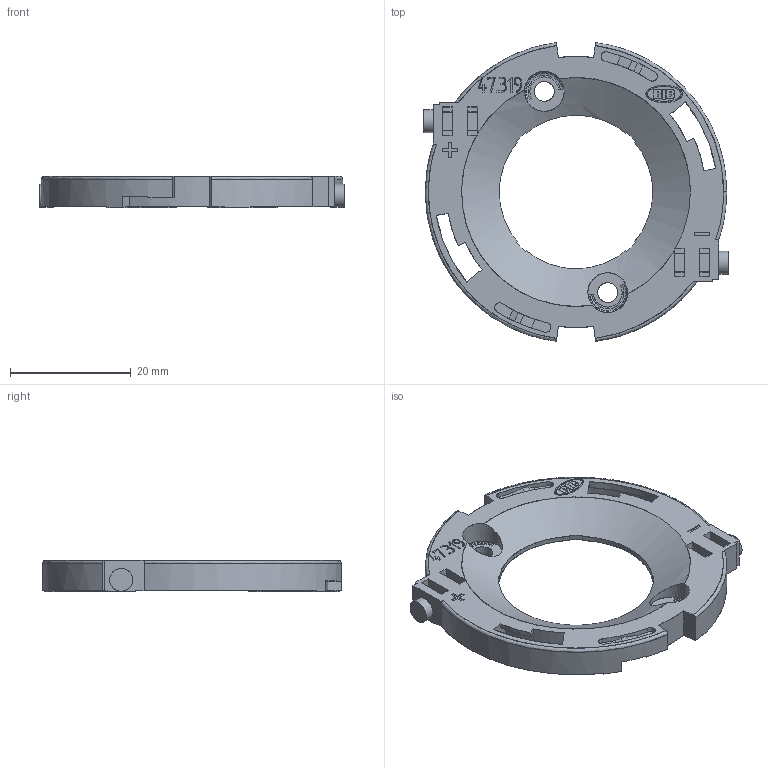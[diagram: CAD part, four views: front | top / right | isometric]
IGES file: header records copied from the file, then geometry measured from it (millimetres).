
Start section: C
Global section: file name: 01T-A0R-09.igs; native system: By Siemens PLM Incorporated; preprocessor: XPlus GENERIC/IGES 18.0.17; author: Author; organization: Title; date: 20171006.135610; units: inch
Bounding box: 50.6 x 49.57 x 5.25 mm (x, y, z)
Surface area: 6105.3 mm2 (no closed solid volume)
Topology: 0 solids, 0 shells, 581 faces, 3438 edges, 3438 vertices
Faces by surface type: bspline 581
